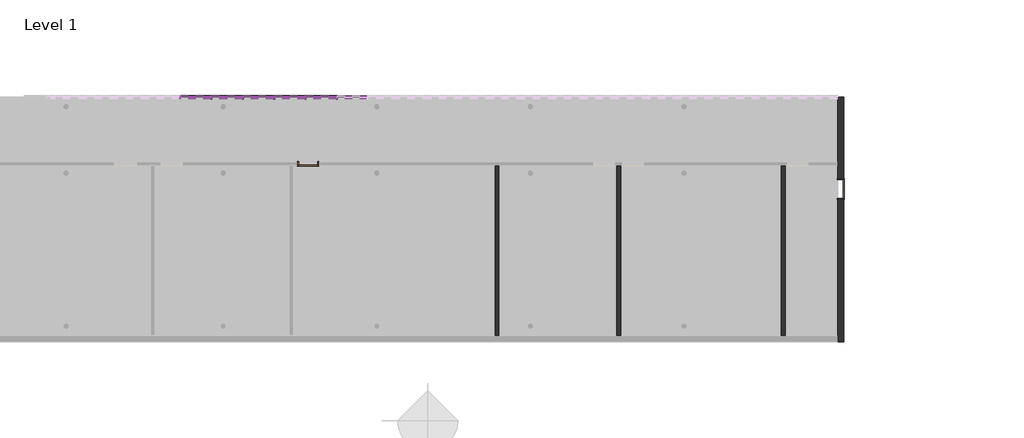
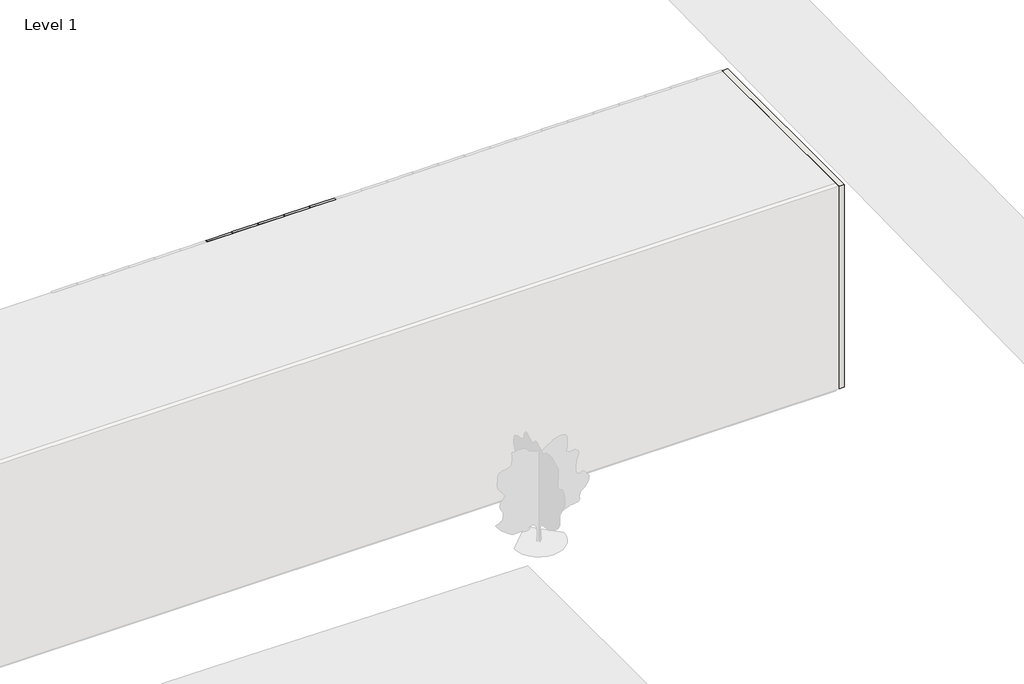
# One storey, part 6 of 18: 81 members, 39 plates, 4 walls, 2 doors.
"""IFC4 building model written with IfcOpenShell, lengths in millimetres."""

from ifc_helpers import new_model, si_unit, origin, origin_with_axes, place, context, project, spatial, polyline, outline, extrude, faceted_brep, transform, mapped, element, save
from components import door_0915mm_x_2134mm_3fa07aa3, door_0915mm_x_2134mm_b19b82af, rectangular_mullion_50mm_x_150mm_5f185edf, rectangular_mullion_50mm_x_150mm_e13fe9f0, rectangular_mullion_50mm_x_150mm_bbc1c4ea, rectangular_mullion_50mm_x_150mm_36202a7c, rectangular_mullion_50mm_x_150mm_84717ec5, system_panel_glazed_65478968, system_panel_glazed_4c130a31, system_panel_solid_368a6b70, system_panel_solid_ece33ae8

model = new_model("IFC4")

# Units and contexts
model_context = context("Model", 3, world=origin())
ifc_project = project(units=[si_unit("LENGTHUNIT", "METRE", prefix="MILLI")], contexts=[model_context])

# Site, building, storey
site = spatial("IfcSite", under=ifc_project)
building = spatial("IfcBuilding", under=site)
storey = spatial("IfcBuildingStorey", under=building, Name="Level 1", Elevation=0.0)

# Doors
placement = place(None, origin())
door_0915mm_x_2134mm_shape = door_0915mm_x_2134mm_3fa07aa3(model_context)
element("IfcDoor", 1, ObjectType="m-doors-hm-f1-a : 0915mm x 2134mm", at=placement, inside=storey, context=model_context, shape_type="MappedRepresentation", body=[
    mapped(door_0915mm_x_2134mm_shape, transform((31461.1968037, -15479.7006057, 0.0), x_axis=(1.0, 0.0, 0.0), y_axis=(0.0, 1.0, 0.0), z_axis=(0.0, 0.0, 1.0))),
])
door_0915mm_x_2134mm_2_shape = door_0915mm_x_2134mm_b19b82af(model_context)
element("IfcDoor", 2, ObjectType="m-doors-hm-f1-a : 0915mm x 2134mm", at=placement, inside=storey, context=model_context, shape_type="MappedRepresentation", body=[
    mapped(door_0915mm_x_2134mm_2_shape, transform((57025.1173382, -16504.7006057, 0.0), x_axis=(0.0, -1.0, 0.0), y_axis=(1.0, 0.0, 0.0), z_axis=(0.0, 0.0, 1.0))),
])

# Members
rectangular_mullion_50mm_x_150mm_shape = rectangular_mullion_50mm_x_150mm_5f185edf(model_context)
element("IfcMember", 3, ObjectType="Rectangular Mullion : 50mm x 150mm", at=placement, inside=storey, context=model_context, shape_type="MappedRepresentation", body=[
    mapped(rectangular_mullion_50mm_x_150mm_shape, transform((32844.5458154, -12132.3615692, 12400.0), x_axis=(0.0, 0.0, 1.0), y_axis=(0.0, 1.0, 0.0), z_axis=(-1.0, 0.0, 0.0))),
])
element("IfcMember", 4, ObjectType="Rectangular Mullion : 50mm x 150mm", at=placement, inside=storey, context=model_context, shape_type="MappedRepresentation", body=[
    mapped(rectangular_mullion_50mm_x_150mm_shape, transform((31352.0725952, -12132.3615692, 12400.0), x_axis=(0.0, 0.0, 1.0), y_axis=(0.0, 1.0, 0.0), z_axis=(-1.0, 0.0, 0.0))),
])
element("IfcMember", 5, ObjectType="Rectangular Mullion : 50mm x 150mm", at=placement, inside=storey, context=model_context, shape_type="MappedRepresentation", body=[
    mapped(rectangular_mullion_50mm_x_150mm_shape, transform((29859.599375, -12132.3615692, 12400.0), x_axis=(0.0, 0.0, 1.0), y_axis=(0.0, 1.0, 0.0), z_axis=(-1.0, 0.0, 0.0))),
])
element("IfcMember", 6, ObjectType="Rectangular Mullion : 50mm x 150mm", at=placement, inside=storey, context=model_context, shape_type="MappedRepresentation", body=[
    mapped(rectangular_mullion_50mm_x_150mm_shape, transform((28367.1261549, -12132.3615692, 12400.0), x_axis=(0.0, 0.0, 1.0), y_axis=(0.0, 1.0, 0.0), z_axis=(-1.0, 0.0, 0.0))),
])
element("IfcMember", 7, ObjectType="Rectangular Mullion : 50mm x 150mm", at=placement, inside=storey, context=model_context, shape_type="MappedRepresentation", body=[
    mapped(rectangular_mullion_50mm_x_150mm_shape, transform((26874.6529347, -12132.3615692, 12400.0), x_axis=(0.0, 0.0, 1.0), y_axis=(0.0, 1.0, 0.0), z_axis=(-1.0, 0.0, 0.0))),
])
element("IfcMember", 8, ObjectType="Rectangular Mullion : 50mm x 150mm", at=placement, inside=storey, context=model_context, shape_type="MappedRepresentation", body=[
    mapped(rectangular_mullion_50mm_x_150mm_shape, transform((32794.5458154, -12132.3615692, 0.0), x_axis=(0.0, 0.0, -1.0), y_axis=(0.0, 1.0, 0.0), z_axis=(1.0, 0.0, 0.0))),
])
element("IfcMember", 9, ObjectType="Rectangular Mullion : 50mm x 150mm", at=placement, inside=storey, context=model_context, shape_type="MappedRepresentation", body=[
    mapped(rectangular_mullion_50mm_x_150mm_shape, transform((31302.0725952, -12132.3615692, 0.0), x_axis=(0.0, 0.0, -1.0), y_axis=(0.0, 1.0, 0.0), z_axis=(1.0, 0.0, 0.0))),
])
element("IfcMember", 10, ObjectType="Rectangular Mullion : 50mm x 150mm", at=placement, inside=storey, context=model_context, shape_type="MappedRepresentation", body=[
    mapped(rectangular_mullion_50mm_x_150mm_shape, transform((29809.599375, -12132.3615692, 0.0), x_axis=(0.0, 0.0, -1.0), y_axis=(0.0, 1.0, 0.0), z_axis=(1.0, 0.0, 0.0))),
])
element("IfcMember", 11, ObjectType="Rectangular Mullion : 50mm x 150mm", at=placement, inside=storey, context=model_context, shape_type="MappedRepresentation", body=[
    mapped(rectangular_mullion_50mm_x_150mm_shape, transform((28317.1261549, -12132.3615692, 0.0), x_axis=(0.0, 0.0, -1.0), y_axis=(0.0, 1.0, 0.0), z_axis=(1.0, 0.0, 0.0))),
])
element("IfcMember", 12, ObjectType="Rectangular Mullion : 50mm x 150mm", at=placement, inside=storey, context=model_context, shape_type="MappedRepresentation", body=[
    mapped(rectangular_mullion_50mm_x_150mm_shape, transform((26824.6529347, -12132.3615692, 0.0), x_axis=(0.0, 0.0, -1.0), y_axis=(0.0, 1.0, 0.0), z_axis=(1.0, 0.0, 0.0))),
])
rectangular_mullion_50mm_x_150mm_2_shape = rectangular_mullion_50mm_x_150mm_e13fe9f0(model_context)
element("IfcMember", 13, ObjectType="Rectangular Mullion : 50mm x 150mm", at=placement, inside=storey, context=model_context, shape_type="MappedRepresentation", body=[
    mapped(rectangular_mullion_50mm_x_150mm_2_shape, transform((32844.5458154, -12132.3615692, 3800.0), x_axis=(0.0, 0.0, 1.0), y_axis=(0.0, 1.0, 0.0), z_axis=(-1.0, 0.0, 0.0))),
])
element("IfcMember", 14, ObjectType="Rectangular Mullion : 50mm x 150mm", at=placement, inside=storey, context=model_context, shape_type="MappedRepresentation", body=[
    mapped(rectangular_mullion_50mm_x_150mm_2_shape, transform((31352.0725952, -12132.3615692, 3800.0), x_axis=(0.0, 0.0, 1.0), y_axis=(0.0, 1.0, 0.0), z_axis=(-1.0, 0.0, 0.0))),
])
element("IfcMember", 15, ObjectType="Rectangular Mullion : 50mm x 150mm", at=placement, inside=storey, context=model_context, shape_type="MappedRepresentation", body=[
    mapped(rectangular_mullion_50mm_x_150mm_2_shape, transform((29859.599375, -12132.3615692, 3800.0), x_axis=(0.0, 0.0, 1.0), y_axis=(0.0, 1.0, 0.0), z_axis=(-1.0, 0.0, 0.0))),
])
element("IfcMember", 16, ObjectType="Rectangular Mullion : 50mm x 150mm", at=placement, inside=storey, context=model_context, shape_type="MappedRepresentation", body=[
    mapped(rectangular_mullion_50mm_x_150mm_2_shape, transform((28367.1261549, -12132.3615692, 3800.0), x_axis=(0.0, 0.0, 1.0), y_axis=(0.0, 1.0, 0.0), z_axis=(-1.0, 0.0, 0.0))),
])
element("IfcMember", 17, ObjectType="Rectangular Mullion : 50mm x 150mm", at=placement, inside=storey, context=model_context, shape_type="MappedRepresentation", body=[
    mapped(rectangular_mullion_50mm_x_150mm_2_shape, transform((26874.6529347, -12132.3615692, 3800.0), x_axis=(0.0, 0.0, 1.0), y_axis=(0.0, 1.0, 0.0), z_axis=(-1.0, 0.0, 0.0))),
])
element("IfcMember", 18, ObjectType="Rectangular Mullion : 50mm x 150mm", at=placement, inside=storey, context=model_context, shape_type="MappedRepresentation", body=[
    mapped(rectangular_mullion_50mm_x_150mm_2_shape, transform((32844.5458154, -12132.3615692, 7600.0), x_axis=(0.0, 0.0, 1.0), y_axis=(0.0, 1.0, 0.0), z_axis=(-1.0, 0.0, 0.0))),
])
element("IfcMember", 19, ObjectType="Rectangular Mullion : 50mm x 150mm", at=placement, inside=storey, context=model_context, shape_type="MappedRepresentation", body=[
    mapped(rectangular_mullion_50mm_x_150mm_2_shape, transform((31352.0725952, -12132.3615692, 7600.0), x_axis=(0.0, 0.0, 1.0), y_axis=(0.0, 1.0, 0.0), z_axis=(-1.0, 0.0, 0.0))),
])
element("IfcMember", 20, ObjectType="Rectangular Mullion : 50mm x 150mm", at=placement, inside=storey, context=model_context, shape_type="MappedRepresentation", body=[
    mapped(rectangular_mullion_50mm_x_150mm_2_shape, transform((29859.599375, -12132.3615692, 7600.0), x_axis=(0.0, 0.0, 1.0), y_axis=(0.0, 1.0, 0.0), z_axis=(-1.0, 0.0, 0.0))),
])
element("IfcMember", 21, ObjectType="Rectangular Mullion : 50mm x 150mm", at=placement, inside=storey, context=model_context, shape_type="MappedRepresentation", body=[
    mapped(rectangular_mullion_50mm_x_150mm_2_shape, transform((28367.1261549, -12132.3615692, 7600.0), x_axis=(0.0, 0.0, 1.0), y_axis=(0.0, 1.0, 0.0), z_axis=(-1.0, 0.0, 0.0))),
])
element("IfcMember", 22, ObjectType="Rectangular Mullion : 50mm x 150mm", at=placement, inside=storey, context=model_context, shape_type="MappedRepresentation", body=[
    mapped(rectangular_mullion_50mm_x_150mm_2_shape, transform((26874.6529347, -12132.3615692, 7600.0), x_axis=(0.0, 0.0, 1.0), y_axis=(0.0, 1.0, 0.0), z_axis=(-1.0, 0.0, 0.0))),
])
element("IfcMember", 23, ObjectType="Rectangular Mullion : 50mm x 150mm", at=placement, inside=storey, context=model_context, shape_type="MappedRepresentation", body=[
    mapped(rectangular_mullion_50mm_x_150mm_2_shape, transform((32844.5458154, -12132.3615692, 11400.0), x_axis=(0.0, 0.0, 1.0), y_axis=(0.0, 1.0, 0.0), z_axis=(-1.0, 0.0, 0.0))),
])
element("IfcMember", 24, ObjectType="Rectangular Mullion : 50mm x 150mm", at=placement, inside=storey, context=model_context, shape_type="MappedRepresentation", body=[
    mapped(rectangular_mullion_50mm_x_150mm_2_shape, transform((31352.0725952, -12132.3615692, 11400.0), x_axis=(0.0, 0.0, 1.0), y_axis=(0.0, 1.0, 0.0), z_axis=(-1.0, 0.0, 0.0))),
])
element("IfcMember", 25, ObjectType="Rectangular Mullion : 50mm x 150mm", at=placement, inside=storey, context=model_context, shape_type="MappedRepresentation", body=[
    mapped(rectangular_mullion_50mm_x_150mm_2_shape, transform((29859.599375, -12132.3615692, 11400.0), x_axis=(0.0, 0.0, 1.0), y_axis=(0.0, 1.0, 0.0), z_axis=(-1.0, 0.0, 0.0))),
])
element("IfcMember", 26, ObjectType="Rectangular Mullion : 50mm x 150mm", at=placement, inside=storey, context=model_context, shape_type="MappedRepresentation", body=[
    mapped(rectangular_mullion_50mm_x_150mm_2_shape, transform((28367.1261549, -12132.3615692, 11400.0), x_axis=(0.0, 0.0, 1.0), y_axis=(0.0, 1.0, 0.0), z_axis=(-1.0, 0.0, 0.0))),
])
element("IfcMember", 27, ObjectType="Rectangular Mullion : 50mm x 150mm", at=placement, inside=storey, context=model_context, shape_type="MappedRepresentation", body=[
    mapped(rectangular_mullion_50mm_x_150mm_2_shape, transform((26874.6529347, -12132.3615692, 11400.0), x_axis=(0.0, 0.0, 1.0), y_axis=(0.0, 1.0, 0.0), z_axis=(-1.0, 0.0, 0.0))),
])
element("IfcMember", 28, ObjectType="Rectangular Mullion : 50mm x 150mm", at=placement, inside=storey, context=model_context, shape_type="MappedRepresentation", body=[
    mapped(rectangular_mullion_50mm_x_150mm_2_shape, transform((32844.5458154, -12132.3615692, 2440.0), x_axis=(0.0, 0.0, 1.0), y_axis=(0.0, 1.0, 0.0), z_axis=(-1.0, 0.0, 0.0))),
])
element("IfcMember", 29, ObjectType="Rectangular Mullion : 50mm x 150mm", at=placement, inside=storey, context=model_context, shape_type="MappedRepresentation", body=[
    mapped(rectangular_mullion_50mm_x_150mm_2_shape, transform((31352.0725952, -12132.3615692, 2440.0), x_axis=(0.0, 0.0, 1.0), y_axis=(0.0, 1.0, 0.0), z_axis=(-1.0, 0.0, 0.0))),
])
element("IfcMember", 30, ObjectType="Rectangular Mullion : 50mm x 150mm", at=placement, inside=storey, context=model_context, shape_type="MappedRepresentation", body=[
    mapped(rectangular_mullion_50mm_x_150mm_2_shape, transform((29859.599375, -12132.3615692, 2440.0), x_axis=(0.0, 0.0, 1.0), y_axis=(0.0, 1.0, 0.0), z_axis=(-1.0, 0.0, 0.0))),
])
element("IfcMember", 31, ObjectType="Rectangular Mullion : 50mm x 150mm", at=placement, inside=storey, context=model_context, shape_type="MappedRepresentation", body=[
    mapped(rectangular_mullion_50mm_x_150mm_2_shape, transform((28367.1261549, -12132.3615692, 2440.0), x_axis=(0.0, 0.0, 1.0), y_axis=(0.0, 1.0, 0.0), z_axis=(-1.0, 0.0, 0.0))),
])
element("IfcMember", 32, ObjectType="Rectangular Mullion : 50mm x 150mm", at=placement, inside=storey, context=model_context, shape_type="MappedRepresentation", body=[
    mapped(rectangular_mullion_50mm_x_150mm_2_shape, transform((26874.6529347, -12132.3615692, 2440.0), x_axis=(0.0, 0.0, 1.0), y_axis=(0.0, 1.0, 0.0), z_axis=(-1.0, 0.0, 0.0))),
])
element("IfcMember", 33, ObjectType="Rectangular Mullion : 50mm x 150mm", at=placement, inside=storey, context=model_context, shape_type="MappedRepresentation", body=[
    mapped(rectangular_mullion_50mm_x_150mm_2_shape, transform((25382.1797146, -12132.3615692, 2440.0), x_axis=(0.0, 0.0, 1.0), y_axis=(0.0, 1.0, 0.0), z_axis=(-1.0, 0.0, 0.0))),
])
element("IfcMember", 34, ObjectType="Rectangular Mullion : 50mm x 150mm", at=placement, inside=storey, context=model_context, shape_type="MappedRepresentation", body=[
    mapped(rectangular_mullion_50mm_x_150mm_2_shape, transform((32844.5458154, -12132.3615692, 6240.0), x_axis=(0.0, 0.0, 1.0), y_axis=(0.0, 1.0, 0.0), z_axis=(-1.0, 0.0, 0.0))),
])
element("IfcMember", 35, ObjectType="Rectangular Mullion : 50mm x 150mm", at=placement, inside=storey, context=model_context, shape_type="MappedRepresentation", body=[
    mapped(rectangular_mullion_50mm_x_150mm_2_shape, transform((31352.0725952, -12132.3615692, 6240.0), x_axis=(0.0, 0.0, 1.0), y_axis=(0.0, 1.0, 0.0), z_axis=(-1.0, 0.0, 0.0))),
])
element("IfcMember", 36, ObjectType="Rectangular Mullion : 50mm x 150mm", at=placement, inside=storey, context=model_context, shape_type="MappedRepresentation", body=[
    mapped(rectangular_mullion_50mm_x_150mm_2_shape, transform((29859.599375, -12132.3615692, 6240.0), x_axis=(0.0, 0.0, 1.0), y_axis=(0.0, 1.0, 0.0), z_axis=(-1.0, 0.0, 0.0))),
])
element("IfcMember", 37, ObjectType="Rectangular Mullion : 50mm x 150mm", at=placement, inside=storey, context=model_context, shape_type="MappedRepresentation", body=[
    mapped(rectangular_mullion_50mm_x_150mm_2_shape, transform((28367.1261549, -12132.3615692, 6240.0), x_axis=(0.0, 0.0, 1.0), y_axis=(0.0, 1.0, 0.0), z_axis=(-1.0, 0.0, 0.0))),
])
element("IfcMember", 38, ObjectType="Rectangular Mullion : 50mm x 150mm", at=placement, inside=storey, context=model_context, shape_type="MappedRepresentation", body=[
    mapped(rectangular_mullion_50mm_x_150mm_2_shape, transform((26874.6529347, -12132.3615692, 6240.0), x_axis=(0.0, 0.0, 1.0), y_axis=(0.0, 1.0, 0.0), z_axis=(-1.0, 0.0, 0.0))),
])
element("IfcMember", 39, ObjectType="Rectangular Mullion : 50mm x 150mm", at=placement, inside=storey, context=model_context, shape_type="MappedRepresentation", body=[
    mapped(rectangular_mullion_50mm_x_150mm_2_shape, transform((25382.1797146, -12132.3615692, 6240.0), x_axis=(0.0, 0.0, 1.0), y_axis=(0.0, 1.0, 0.0), z_axis=(-1.0, 0.0, 0.0))),
])
element("IfcMember", 40, ObjectType="Rectangular Mullion : 50mm x 150mm", at=placement, inside=storey, context=model_context, shape_type="MappedRepresentation", body=[
    mapped(rectangular_mullion_50mm_x_150mm_2_shape, transform((32844.5458154, -12132.3615692, 10040.0), x_axis=(0.0, 0.0, 1.0), y_axis=(0.0, 1.0, 0.0), z_axis=(-1.0, 0.0, 0.0))),
])
element("IfcMember", 41, ObjectType="Rectangular Mullion : 50mm x 150mm", at=placement, inside=storey, context=model_context, shape_type="MappedRepresentation", body=[
    mapped(rectangular_mullion_50mm_x_150mm_2_shape, transform((31352.0725952, -12132.3615692, 10040.0), x_axis=(0.0, 0.0, 1.0), y_axis=(0.0, 1.0, 0.0), z_axis=(-1.0, 0.0, 0.0))),
])
element("IfcMember", 42, ObjectType="Rectangular Mullion : 50mm x 150mm", at=placement, inside=storey, context=model_context, shape_type="MappedRepresentation", body=[
    mapped(rectangular_mullion_50mm_x_150mm_2_shape, transform((29859.599375, -12132.3615692, 10040.0), x_axis=(0.0, 0.0, 1.0), y_axis=(0.0, 1.0, 0.0), z_axis=(-1.0, 0.0, 0.0))),
])
element("IfcMember", 43, ObjectType="Rectangular Mullion : 50mm x 150mm", at=placement, inside=storey, context=model_context, shape_type="MappedRepresentation", body=[
    mapped(rectangular_mullion_50mm_x_150mm_2_shape, transform((28367.1261549, -12132.3615692, 10040.0), x_axis=(0.0, 0.0, 1.0), y_axis=(0.0, 1.0, 0.0), z_axis=(-1.0, 0.0, 0.0))),
])
element("IfcMember", 44, ObjectType="Rectangular Mullion : 50mm x 150mm", at=placement, inside=storey, context=model_context, shape_type="MappedRepresentation", body=[
    mapped(rectangular_mullion_50mm_x_150mm_2_shape, transform((26874.6529347, -12132.3615692, 10040.0), x_axis=(0.0, 0.0, 1.0), y_axis=(0.0, 1.0, 0.0), z_axis=(-1.0, 0.0, 0.0))),
])
element("IfcMember", 45, ObjectType="Rectangular Mullion : 50mm x 150mm", at=placement, inside=storey, context=model_context, shape_type="MappedRepresentation", body=[
    mapped(rectangular_mullion_50mm_x_150mm_2_shape, transform((25382.1797146, -12132.3615692, 10040.0), x_axis=(0.0, 0.0, 1.0), y_axis=(0.0, 1.0, 0.0), z_axis=(-1.0, 0.0, 0.0))),
])
rectangular_mullion_50mm_x_150mm_3_shape = rectangular_mullion_50mm_x_150mm_bbc1c4ea(model_context)
element("IfcMember", 46, ObjectType="Rectangular Mullion : 50mm x 150mm", at=placement, inside=storey, context=model_context, shape_type="MappedRepresentation", body=[
    mapped(rectangular_mullion_50mm_x_150mm_3_shape, transform((32819.5458154, -12132.3615692, 11400.0), x_axis=(-1.0, 0.0, 0.0), y_axis=(0.0, 1.0, 0.0), z_axis=(0.0, 0.0, -1.0))),
])
element("IfcMember", 47, ObjectType="Rectangular Mullion : 50mm x 150mm", at=placement, inside=storey, context=model_context, shape_type="MappedRepresentation", body=[
    mapped(rectangular_mullion_50mm_x_150mm_3_shape, transform((31327.0725952, -12132.3615692, 11400.0), x_axis=(-1.0, 0.0, 0.0), y_axis=(0.0, 1.0, 0.0), z_axis=(0.0, 0.0, -1.0))),
])
element("IfcMember", 48, ObjectType="Rectangular Mullion : 50mm x 150mm", at=placement, inside=storey, context=model_context, shape_type="MappedRepresentation", body=[
    mapped(rectangular_mullion_50mm_x_150mm_3_shape, transform((29834.599375, -12132.3615692, 11400.0), x_axis=(-1.0, 0.0, 0.0), y_axis=(0.0, 1.0, 0.0), z_axis=(0.0, 0.0, -1.0))),
])
element("IfcMember", 49, ObjectType="Rectangular Mullion : 50mm x 150mm", at=placement, inside=storey, context=model_context, shape_type="MappedRepresentation", body=[
    mapped(rectangular_mullion_50mm_x_150mm_3_shape, transform((28342.1261549, -12132.3615692, 11400.0), x_axis=(-1.0, 0.0, 0.0), y_axis=(0.0, 1.0, 0.0), z_axis=(0.0, 0.0, -1.0))),
])
element("IfcMember", 50, ObjectType="Rectangular Mullion : 50mm x 150mm", at=placement, inside=storey, context=model_context, shape_type="MappedRepresentation", body=[
    mapped(rectangular_mullion_50mm_x_150mm_3_shape, transform((26849.6529347, -12132.3615692, 11400.0), x_axis=(-1.0, 0.0, 0.0), y_axis=(0.0, 1.0, 0.0), z_axis=(0.0, 0.0, -1.0))),
])
rectangular_mullion_50mm_x_150mm_4_shape = rectangular_mullion_50mm_x_150mm_36202a7c(model_context)
element("IfcMember", 51, ObjectType="Rectangular Mullion : 50mm x 150mm", at=placement, inside=storey, context=model_context, shape_type="MappedRepresentation", body=[
    mapped(rectangular_mullion_50mm_x_150mm_4_shape, transform((32819.5458154, -12132.3615692, 0.0), x_axis=(-1.0, 0.0, 0.0), y_axis=(0.0, 1.0, 0.0), z_axis=(0.0, 0.0, -1.0))),
])
element("IfcMember", 52, ObjectType="Rectangular Mullion : 50mm x 150mm", at=placement, inside=storey, context=model_context, shape_type="MappedRepresentation", body=[
    mapped(rectangular_mullion_50mm_x_150mm_4_shape, transform((31327.0725952, -12132.3615692, 0.0), x_axis=(-1.0, 0.0, 0.0), y_axis=(0.0, 1.0, 0.0), z_axis=(0.0, 0.0, -1.0))),
])
element("IfcMember", 53, ObjectType="Rectangular Mullion : 50mm x 150mm", at=placement, inside=storey, context=model_context, shape_type="MappedRepresentation", body=[
    mapped(rectangular_mullion_50mm_x_150mm_4_shape, transform((29834.599375, -12132.3615692, 0.0), x_axis=(-1.0, 0.0, 0.0), y_axis=(0.0, 1.0, 0.0), z_axis=(0.0, 0.0, -1.0))),
])
element("IfcMember", 54, ObjectType="Rectangular Mullion : 50mm x 150mm", at=placement, inside=storey, context=model_context, shape_type="MappedRepresentation", body=[
    mapped(rectangular_mullion_50mm_x_150mm_4_shape, transform((28342.1261549, -12132.3615692, 0.0), x_axis=(-1.0, 0.0, 0.0), y_axis=(0.0, 1.0, 0.0), z_axis=(0.0, 0.0, -1.0))),
])
element("IfcMember", 55, ObjectType="Rectangular Mullion : 50mm x 150mm", at=placement, inside=storey, context=model_context, shape_type="MappedRepresentation", body=[
    mapped(rectangular_mullion_50mm_x_150mm_4_shape, transform((26849.6529347, -12132.3615692, 0.0), x_axis=(-1.0, 0.0, 0.0), y_axis=(0.0, 1.0, 0.0), z_axis=(0.0, 0.0, -1.0))),
])
rectangular_mullion_50mm_x_150mm_5_shape = rectangular_mullion_50mm_x_150mm_84717ec5(model_context)
element("IfcMember", 56, ObjectType="Rectangular Mullion : 50mm x 150mm", at=placement, inside=storey, context=model_context, shape_type="MappedRepresentation", body=[
    mapped(rectangular_mullion_50mm_x_150mm_5_shape, transform((32819.5458154, -12132.3615692, 2440.0), x_axis=(-1.0, 0.0, 0.0), y_axis=(0.0, 1.0, 0.0), z_axis=(0.0, 0.0, -1.0))),
])
element("IfcMember", 57, ObjectType="Rectangular Mullion : 50mm x 150mm", at=placement, inside=storey, context=model_context, shape_type="MappedRepresentation", body=[
    mapped(rectangular_mullion_50mm_x_150mm_5_shape, transform((31327.0725952, -12132.3615692, 2440.0), x_axis=(-1.0, 0.0, 0.0), y_axis=(0.0, 1.0, 0.0), z_axis=(0.0, 0.0, -1.0))),
])
element("IfcMember", 58, ObjectType="Rectangular Mullion : 50mm x 150mm", at=placement, inside=storey, context=model_context, shape_type="MappedRepresentation", body=[
    mapped(rectangular_mullion_50mm_x_150mm_5_shape, transform((29834.599375, -12132.3615692, 2440.0), x_axis=(-1.0, 0.0, 0.0), y_axis=(0.0, 1.0, 0.0), z_axis=(0.0, 0.0, -1.0))),
])
element("IfcMember", 59, ObjectType="Rectangular Mullion : 50mm x 150mm", at=placement, inside=storey, context=model_context, shape_type="MappedRepresentation", body=[
    mapped(rectangular_mullion_50mm_x_150mm_5_shape, transform((28342.1261549, -12132.3615692, 2440.0), x_axis=(-1.0, 0.0, 0.0), y_axis=(0.0, 1.0, 0.0), z_axis=(0.0, 0.0, -1.0))),
])
element("IfcMember", 60, ObjectType="Rectangular Mullion : 50mm x 150mm", at=placement, inside=storey, context=model_context, shape_type="MappedRepresentation", body=[
    mapped(rectangular_mullion_50mm_x_150mm_5_shape, transform((26849.6529347, -12132.3615692, 2440.0), x_axis=(-1.0, 0.0, 0.0), y_axis=(0.0, 1.0, 0.0), z_axis=(0.0, 0.0, -1.0))),
])
element("IfcMember", 61, ObjectType="Rectangular Mullion : 50mm x 150mm", at=placement, inside=storey, context=model_context, shape_type="MappedRepresentation", body=[
    mapped(rectangular_mullion_50mm_x_150mm_5_shape, transform((25357.1797146, -12132.3615692, 2440.0), x_axis=(-1.0, 0.0, 0.0), y_axis=(0.0, 1.0, 0.0), z_axis=(0.0, 0.0, -1.0))),
])
element("IfcMember", 62, ObjectType="Rectangular Mullion : 50mm x 150mm", at=placement, inside=storey, context=model_context, shape_type="MappedRepresentation", body=[
    mapped(rectangular_mullion_50mm_x_150mm_5_shape, transform((32819.5458154, -12132.3615692, 6240.0), x_axis=(-1.0, 0.0, 0.0), y_axis=(0.0, 1.0, 0.0), z_axis=(0.0, 0.0, -1.0))),
])
element("IfcMember", 63, ObjectType="Rectangular Mullion : 50mm x 150mm", at=placement, inside=storey, context=model_context, shape_type="MappedRepresentation", body=[
    mapped(rectangular_mullion_50mm_x_150mm_5_shape, transform((31327.0725952, -12132.3615692, 6240.0), x_axis=(-1.0, 0.0, 0.0), y_axis=(0.0, 1.0, 0.0), z_axis=(0.0, 0.0, -1.0))),
])
element("IfcMember", 64, ObjectType="Rectangular Mullion : 50mm x 150mm", at=placement, inside=storey, context=model_context, shape_type="MappedRepresentation", body=[
    mapped(rectangular_mullion_50mm_x_150mm_5_shape, transform((29834.599375, -12132.3615692, 6240.0), x_axis=(-1.0, 0.0, 0.0), y_axis=(0.0, 1.0, 0.0), z_axis=(0.0, 0.0, -1.0))),
])
element("IfcMember", 65, ObjectType="Rectangular Mullion : 50mm x 150mm", at=placement, inside=storey, context=model_context, shape_type="MappedRepresentation", body=[
    mapped(rectangular_mullion_50mm_x_150mm_5_shape, transform((28342.1261549, -12132.3615692, 6240.0), x_axis=(-1.0, 0.0, 0.0), y_axis=(0.0, 1.0, 0.0), z_axis=(0.0, 0.0, -1.0))),
])
element("IfcMember", 66, ObjectType="Rectangular Mullion : 50mm x 150mm", at=placement, inside=storey, context=model_context, shape_type="MappedRepresentation", body=[
    mapped(rectangular_mullion_50mm_x_150mm_5_shape, transform((26849.6529347, -12132.3615692, 6240.0), x_axis=(-1.0, 0.0, 0.0), y_axis=(0.0, 1.0, 0.0), z_axis=(0.0, 0.0, -1.0))),
])
element("IfcMember", 67, ObjectType="Rectangular Mullion : 50mm x 150mm", at=placement, inside=storey, context=model_context, shape_type="MappedRepresentation", body=[
    mapped(rectangular_mullion_50mm_x_150mm_5_shape, transform((25357.1797146, -12132.3615692, 6240.0), x_axis=(-1.0, 0.0, 0.0), y_axis=(0.0, 1.0, 0.0), z_axis=(0.0, 0.0, -1.0))),
])
element("IfcMember", 68, ObjectType="Rectangular Mullion : 50mm x 150mm", at=placement, inside=storey, context=model_context, shape_type="MappedRepresentation", body=[
    mapped(rectangular_mullion_50mm_x_150mm_5_shape, transform((32819.5458154, -12132.3615692, 10040.0), x_axis=(-1.0, 0.0, 0.0), y_axis=(0.0, 1.0, 0.0), z_axis=(0.0, 0.0, -1.0))),
])
element("IfcMember", 69, ObjectType="Rectangular Mullion : 50mm x 150mm", at=placement, inside=storey, context=model_context, shape_type="MappedRepresentation", body=[
    mapped(rectangular_mullion_50mm_x_150mm_5_shape, transform((31327.0725952, -12132.3615692, 10040.0), x_axis=(-1.0, 0.0, 0.0), y_axis=(0.0, 1.0, 0.0), z_axis=(0.0, 0.0, -1.0))),
])
element("IfcMember", 70, ObjectType="Rectangular Mullion : 50mm x 150mm", at=placement, inside=storey, context=model_context, shape_type="MappedRepresentation", body=[
    mapped(rectangular_mullion_50mm_x_150mm_5_shape, transform((29834.599375, -12132.3615692, 10040.0), x_axis=(-1.0, 0.0, 0.0), y_axis=(0.0, 1.0, 0.0), z_axis=(0.0, 0.0, -1.0))),
])
element("IfcMember", 71, ObjectType="Rectangular Mullion : 50mm x 150mm", at=placement, inside=storey, context=model_context, shape_type="MappedRepresentation", body=[
    mapped(rectangular_mullion_50mm_x_150mm_5_shape, transform((28342.1261549, -12132.3615692, 10040.0), x_axis=(-1.0, 0.0, 0.0), y_axis=(0.0, 1.0, 0.0), z_axis=(0.0, 0.0, -1.0))),
])
element("IfcMember", 72, ObjectType="Rectangular Mullion : 50mm x 150mm", at=placement, inside=storey, context=model_context, shape_type="MappedRepresentation", body=[
    mapped(rectangular_mullion_50mm_x_150mm_5_shape, transform((26849.6529347, -12132.3615692, 10040.0), x_axis=(-1.0, 0.0, 0.0), y_axis=(0.0, 1.0, 0.0), z_axis=(0.0, 0.0, -1.0))),
])
element("IfcMember", 73, ObjectType="Rectangular Mullion : 50mm x 150mm", at=placement, inside=storey, context=model_context, shape_type="MappedRepresentation", body=[
    mapped(rectangular_mullion_50mm_x_150mm_5_shape, transform((25357.1797146, -12132.3615692, 10040.0), x_axis=(-1.0, 0.0, 0.0), y_axis=(0.0, 1.0, 0.0), z_axis=(0.0, 0.0, -1.0))),
])
element("IfcMember", 74, ObjectType="Rectangular Mullion : 50mm x 150mm", at=placement, inside=storey, context=model_context, shape_type="MappedRepresentation", body=[
    mapped(rectangular_mullion_50mm_x_150mm_4_shape, transform((32819.5458154, -12132.3615692, 3800.0), x_axis=(-1.0, 0.0, 0.0), y_axis=(0.0, 1.0, 0.0), z_axis=(0.0, 0.0, -1.0))),
])
element("IfcMember", 75, ObjectType="Rectangular Mullion : 50mm x 150mm", at=placement, inside=storey, context=model_context, shape_type="MappedRepresentation", body=[
    mapped(rectangular_mullion_50mm_x_150mm_4_shape, transform((31327.0725952, -12132.3615692, 3800.0), x_axis=(-1.0, 0.0, 0.0), y_axis=(0.0, 1.0, 0.0), z_axis=(0.0, 0.0, -1.0))),
])
element("IfcMember", 76, ObjectType="Rectangular Mullion : 50mm x 150mm", at=placement, inside=storey, context=model_context, shape_type="MappedRepresentation", body=[
    mapped(rectangular_mullion_50mm_x_150mm_4_shape, transform((29834.599375, -12132.3615692, 3800.0), x_axis=(-1.0, 0.0, 0.0), y_axis=(0.0, 1.0, 0.0), z_axis=(0.0, 0.0, -1.0))),
])
element("IfcMember", 77, ObjectType="Rectangular Mullion : 50mm x 150mm", at=placement, inside=storey, context=model_context, shape_type="MappedRepresentation", body=[
    mapped(rectangular_mullion_50mm_x_150mm_4_shape, transform((28342.1261549, -12132.3615692, 3800.0), x_axis=(-1.0, 0.0, 0.0), y_axis=(0.0, 1.0, 0.0), z_axis=(0.0, 0.0, -1.0))),
])
element("IfcMember", 78, ObjectType="Rectangular Mullion : 50mm x 150mm", at=placement, inside=storey, context=model_context, shape_type="MappedRepresentation", body=[
    mapped(rectangular_mullion_50mm_x_150mm_4_shape, transform((26849.6529347, -12132.3615692, 3800.0), x_axis=(-1.0, 0.0, 0.0), y_axis=(0.0, 1.0, 0.0), z_axis=(0.0, 0.0, -1.0))),
])
element("IfcMember", 79, ObjectType="Rectangular Mullion : 50mm x 150mm", at=placement, inside=storey, context=model_context, shape_type="MappedRepresentation", body=[
    mapped(rectangular_mullion_50mm_x_150mm_4_shape, transform((32819.5458154, -12132.3615692, 7600.0), x_axis=(-1.0, 0.0, 0.0), y_axis=(0.0, 1.0, 0.0), z_axis=(0.0, 0.0, -1.0))),
])
element("IfcMember", 80, ObjectType="Rectangular Mullion : 50mm x 150mm", at=placement, inside=storey, context=model_context, shape_type="MappedRepresentation", body=[
    mapped(rectangular_mullion_50mm_x_150mm_4_shape, transform((31327.0725952, -12132.3615692, 7600.0), x_axis=(-1.0, 0.0, 0.0), y_axis=(0.0, 1.0, 0.0), z_axis=(0.0, 0.0, -1.0))),
])
element("IfcMember", 81, ObjectType="Rectangular Mullion : 50mm x 150mm", at=placement, inside=storey, context=model_context, shape_type="MappedRepresentation", body=[
    mapped(rectangular_mullion_50mm_x_150mm_4_shape, transform((29834.599375, -12132.3615692, 7600.0), x_axis=(-1.0, 0.0, 0.0), y_axis=(0.0, 1.0, 0.0), z_axis=(0.0, 0.0, -1.0))),
])
element("IfcMember", 82, ObjectType="Rectangular Mullion : 50mm x 150mm", at=placement, inside=storey, context=model_context, shape_type="MappedRepresentation", body=[
    mapped(rectangular_mullion_50mm_x_150mm_4_shape, transform((28342.1261549, -12132.3615692, 7600.0), x_axis=(-1.0, 0.0, 0.0), y_axis=(0.0, 1.0, 0.0), z_axis=(0.0, 0.0, -1.0))),
])
element("IfcMember", 83, ObjectType="Rectangular Mullion : 50mm x 150mm", at=placement, inside=storey, context=model_context, shape_type="MappedRepresentation", body=[
    mapped(rectangular_mullion_50mm_x_150mm_4_shape, transform((26849.6529347, -12132.3615692, 7600.0), x_axis=(-1.0, 0.0, 0.0), y_axis=(0.0, 1.0, 0.0), z_axis=(0.0, 0.0, -1.0))),
])

# Plates
system_panel_glazed_shape = system_panel_glazed_65478968(model_context)
element("IfcPlate", 84, ObjectType="System Panel : Glazed", at=placement, inside=storey, context=model_context, shape_type="MappedRepresentation", body=[
    mapped(system_panel_glazed_shape, transform((33565.7824254, -12132.3615692, 50.0), x_axis=(-1.0, 0.0, 0.0), y_axis=(0.0, -1.0, 0.0), z_axis=(0.0, 0.0, 1.0))),
])
element("IfcPlate", 85, ObjectType="System Panel : Glazed", at=placement, inside=storey, context=model_context, shape_type="MappedRepresentation", body=[
    mapped(system_panel_glazed_shape, transform((32073.3092053, -12132.3615692, 50.0), x_axis=(-1.0, 0.0, 0.0), y_axis=(0.0, -1.0, 0.0), z_axis=(0.0, 0.0, 1.0))),
])
element("IfcPlate", 86, ObjectType="System Panel : Glazed", at=placement, inside=storey, context=model_context, shape_type="MappedRepresentation", body=[
    mapped(system_panel_glazed_shape, transform((30580.8359851, -12132.3615692, 50.0), x_axis=(-1.0, 0.0, 0.0), y_axis=(0.0, -1.0, 0.0), z_axis=(0.0, 0.0, 1.0))),
])
element("IfcPlate", 87, ObjectType="System Panel : Glazed", at=placement, inside=storey, context=model_context, shape_type="MappedRepresentation", body=[
    mapped(system_panel_glazed_shape, transform((29088.362765, -12132.3615692, 50.0), x_axis=(-1.0, 0.0, 0.0), y_axis=(0.0, -1.0, 0.0), z_axis=(0.0, 0.0, 1.0))),
])
element("IfcPlate", 88, ObjectType="System Panel : Glazed", at=placement, inside=storey, context=model_context, shape_type="MappedRepresentation", body=[
    mapped(system_panel_glazed_shape, transform((27595.8895448, -12132.3615692, 50.0), x_axis=(-1.0, 0.0, 0.0), y_axis=(0.0, -1.0, 0.0), z_axis=(0.0, 0.0, 1.0))),
])
element("IfcPlate", 89, ObjectType="System Panel : Glazed", at=placement, inside=storey, context=model_context, shape_type="MappedRepresentation", body=[
    mapped(system_panel_glazed_shape, transform((26103.4163247, -12132.3615692, 50.0), x_axis=(-1.0, 0.0, 0.0), y_axis=(0.0, -1.0, 0.0), z_axis=(0.0, 0.0, 1.0))),
])
system_panel_glazed_2_shape = system_panel_glazed_4c130a31(model_context)
element("IfcPlate", 90, ObjectType="System Panel : Glazed", at=placement, inside=storey, context=model_context, shape_type="MappedRepresentation", body=[
    mapped(system_panel_glazed_2_shape, transform((33565.7824254, -12132.3615692, 3825.0), x_axis=(-1.0, 0.0, 0.0), y_axis=(0.0, -1.0, 0.0), z_axis=(0.0, 0.0, 1.0))),
])
element("IfcPlate", 91, ObjectType="System Panel : Glazed", at=placement, inside=storey, context=model_context, shape_type="MappedRepresentation", body=[
    mapped(system_panel_glazed_2_shape, transform((32073.3092053, -12132.3615692, 3825.0), x_axis=(-1.0, 0.0, 0.0), y_axis=(0.0, -1.0, 0.0), z_axis=(0.0, 0.0, 1.0))),
])
element("IfcPlate", 92, ObjectType="System Panel : Glazed", at=placement, inside=storey, context=model_context, shape_type="MappedRepresentation", body=[
    mapped(system_panel_glazed_2_shape, transform((30580.8359851, -12132.3615692, 3825.0), x_axis=(-1.0, 0.0, 0.0), y_axis=(0.0, -1.0, 0.0), z_axis=(0.0, 0.0, 1.0))),
])
element("IfcPlate", 93, ObjectType="System Panel : Glazed", at=placement, inside=storey, context=model_context, shape_type="MappedRepresentation", body=[
    mapped(system_panel_glazed_2_shape, transform((29088.362765, -12132.3615692, 3825.0), x_axis=(-1.0, 0.0, 0.0), y_axis=(0.0, -1.0, 0.0), z_axis=(0.0, 0.0, 1.0))),
])
element("IfcPlate", 94, ObjectType="System Panel : Glazed", at=placement, inside=storey, context=model_context, shape_type="MappedRepresentation", body=[
    mapped(system_panel_glazed_2_shape, transform((27595.8895448, -12132.3615692, 3825.0), x_axis=(-1.0, 0.0, 0.0), y_axis=(0.0, -1.0, 0.0), z_axis=(0.0, 0.0, 1.0))),
])
element("IfcPlate", 95, ObjectType="System Panel : Glazed", at=placement, inside=storey, context=model_context, shape_type="MappedRepresentation", body=[
    mapped(system_panel_glazed_2_shape, transform((26103.4163247, -12132.3615692, 3825.0), x_axis=(-1.0, 0.0, 0.0), y_axis=(0.0, -1.0, 0.0), z_axis=(0.0, 0.0, 1.0))),
])
element("IfcPlate", 96, ObjectType="System Panel : Glazed", at=placement, inside=storey, context=model_context, shape_type="MappedRepresentation", body=[
    mapped(system_panel_glazed_2_shape, transform((33565.7824254, -12132.3615692, 7625.0), x_axis=(-1.0, 0.0, 0.0), y_axis=(0.0, -1.0, 0.0), z_axis=(0.0, 0.0, 1.0))),
])
element("IfcPlate", 97, ObjectType="System Panel : Glazed", at=placement, inside=storey, context=model_context, shape_type="MappedRepresentation", body=[
    mapped(system_panel_glazed_2_shape, transform((32073.3092053, -12132.3615692, 7625.0), x_axis=(-1.0, 0.0, 0.0), y_axis=(0.0, -1.0, 0.0), z_axis=(0.0, 0.0, 1.0))),
])
element("IfcPlate", 98, ObjectType="System Panel : Glazed", at=placement, inside=storey, context=model_context, shape_type="MappedRepresentation", body=[
    mapped(system_panel_glazed_2_shape, transform((30580.8359851, -12132.3615692, 7625.0), x_axis=(-1.0, 0.0, 0.0), y_axis=(0.0, -1.0, 0.0), z_axis=(0.0, 0.0, 1.0))),
])
element("IfcPlate", 99, ObjectType="System Panel : Glazed", at=placement, inside=storey, context=model_context, shape_type="MappedRepresentation", body=[
    mapped(system_panel_glazed_2_shape, transform((29088.362765, -12132.3615692, 7625.0), x_axis=(-1.0, 0.0, 0.0), y_axis=(0.0, -1.0, 0.0), z_axis=(0.0, 0.0, 1.0))),
])
element("IfcPlate", 100, ObjectType="System Panel : Glazed", at=placement, inside=storey, context=model_context, shape_type="MappedRepresentation", body=[
    mapped(system_panel_glazed_2_shape, transform((27595.8895448, -12132.3615692, 7625.0), x_axis=(-1.0, 0.0, 0.0), y_axis=(0.0, -1.0, 0.0), z_axis=(0.0, 0.0, 1.0))),
])
element("IfcPlate", 101, ObjectType="System Panel : Glazed", at=placement, inside=storey, context=model_context, shape_type="MappedRepresentation", body=[
    mapped(system_panel_glazed_2_shape, transform((26103.4163247, -12132.3615692, 7625.0), x_axis=(-1.0, 0.0, 0.0), y_axis=(0.0, -1.0, 0.0), z_axis=(0.0, 0.0, 1.0))),
])
system_panel_solid_shape = system_panel_solid_368a6b70(model_context)
element("IfcPlate", 102, ObjectType="System Panel : Solid", at=placement, inside=storey, context=model_context, shape_type="MappedRepresentation", body=[
    mapped(system_panel_solid_shape, transform((33565.7824254, -12132.3615692, 11425.0), x_axis=(-1.0, 0.0, 0.0), y_axis=(0.0, -1.0, 0.0), z_axis=(0.0, 0.0, 1.0))),
])
element("IfcPlate", 103, ObjectType="System Panel : Solid", at=placement, inside=storey, context=model_context, shape_type="MappedRepresentation", body=[
    mapped(system_panel_solid_shape, transform((32073.3092053, -12132.3615692, 11425.0), x_axis=(-1.0, 0.0, 0.0), y_axis=(0.0, -1.0, 0.0), z_axis=(0.0, 0.0, 1.0))),
])
element("IfcPlate", 104, ObjectType="System Panel : Solid", at=placement, inside=storey, context=model_context, shape_type="MappedRepresentation", body=[
    mapped(system_panel_solid_shape, transform((30580.8359851, -12132.3615692, 11425.0), x_axis=(-1.0, 0.0, 0.0), y_axis=(0.0, -1.0, 0.0), z_axis=(0.0, 0.0, 1.0))),
])
element("IfcPlate", 105, ObjectType="System Panel : Solid", at=placement, inside=storey, context=model_context, shape_type="MappedRepresentation", body=[
    mapped(system_panel_solid_shape, transform((29088.362765, -12132.3615692, 11425.0), x_axis=(-1.0, 0.0, 0.0), y_axis=(0.0, -1.0, 0.0), z_axis=(0.0, 0.0, 1.0))),
])
element("IfcPlate", 106, ObjectType="System Panel : Solid", at=placement, inside=storey, context=model_context, shape_type="MappedRepresentation", body=[
    mapped(system_panel_solid_shape, transform((27595.8895448, -12132.3615692, 11425.0), x_axis=(-1.0, 0.0, 0.0), y_axis=(0.0, -1.0, 0.0), z_axis=(0.0, 0.0, 1.0))),
])
element("IfcPlate", 107, ObjectType="System Panel : Solid", at=placement, inside=storey, context=model_context, shape_type="MappedRepresentation", body=[
    mapped(system_panel_solid_shape, transform((26103.4163247, -12132.3615692, 11425.0), x_axis=(-1.0, 0.0, 0.0), y_axis=(0.0, -1.0, 0.0), z_axis=(0.0, 0.0, 1.0))),
])
system_panel_solid_2_shape = system_panel_solid_ece33ae8(model_context)
element("IfcPlate", 108, ObjectType="System Panel : Solid", at=placement, inside=storey, context=model_context, shape_type="MappedRepresentation", body=[
    mapped(system_panel_solid_2_shape, transform((32073.3092053, -12132.3615692, 2465.0), x_axis=(-1.0, 0.0, 0.0), y_axis=(0.0, -1.0, 0.0), z_axis=(0.0, 0.0, 1.0))),
])
element("IfcPlate", 109, ObjectType="System Panel : Solid", at=placement, inside=storey, context=model_context, shape_type="MappedRepresentation", body=[
    mapped(system_panel_solid_2_shape, transform((30580.8359851, -12132.3615692, 2465.0), x_axis=(-1.0, 0.0, 0.0), y_axis=(0.0, -1.0, 0.0), z_axis=(0.0, 0.0, 1.0))),
])
element("IfcPlate", 110, ObjectType="System Panel : Solid", at=placement, inside=storey, context=model_context, shape_type="MappedRepresentation", body=[
    mapped(system_panel_solid_2_shape, transform((29088.362765, -12132.3615692, 2465.0), x_axis=(-1.0, 0.0, 0.0), y_axis=(0.0, -1.0, 0.0), z_axis=(0.0, 0.0, 1.0))),
])
element("IfcPlate", 111, ObjectType="System Panel : Solid", at=placement, inside=storey, context=model_context, shape_type="MappedRepresentation", body=[
    mapped(system_panel_solid_2_shape, transform((27595.8895448, -12132.3615692, 2465.0), x_axis=(-1.0, 0.0, 0.0), y_axis=(0.0, -1.0, 0.0), z_axis=(0.0, 0.0, 1.0))),
])
element("IfcPlate", 112, ObjectType="System Panel : Solid", at=placement, inside=storey, context=model_context, shape_type="MappedRepresentation", body=[
    mapped(system_panel_solid_2_shape, transform((26103.4163247, -12132.3615692, 2465.0), x_axis=(-1.0, 0.0, 0.0), y_axis=(0.0, -1.0, 0.0), z_axis=(0.0, 0.0, 1.0))),
])
element("IfcPlate", 113, ObjectType="System Panel : Solid", at=placement, inside=storey, context=model_context, shape_type="MappedRepresentation", body=[
    mapped(system_panel_solid_2_shape, transform((32073.3092053, -12132.3615692, 6265.0), x_axis=(-1.0, 0.0, 0.0), y_axis=(0.0, -1.0, 0.0), z_axis=(0.0, 0.0, 1.0))),
])
element("IfcPlate", 114, ObjectType="System Panel : Solid", at=placement, inside=storey, context=model_context, shape_type="MappedRepresentation", body=[
    mapped(system_panel_solid_2_shape, transform((30580.8359851, -12132.3615692, 6265.0), x_axis=(-1.0, 0.0, 0.0), y_axis=(0.0, -1.0, 0.0), z_axis=(0.0, 0.0, 1.0))),
])
element("IfcPlate", 115, ObjectType="System Panel : Solid", at=placement, inside=storey, context=model_context, shape_type="MappedRepresentation", body=[
    mapped(system_panel_solid_2_shape, transform((29088.362765, -12132.3615692, 6265.0), x_axis=(-1.0, 0.0, 0.0), y_axis=(0.0, -1.0, 0.0), z_axis=(0.0, 0.0, 1.0))),
])
element("IfcPlate", 116, ObjectType="System Panel : Solid", at=placement, inside=storey, context=model_context, shape_type="MappedRepresentation", body=[
    mapped(system_panel_solid_2_shape, transform((27595.8895448, -12132.3615692, 6265.0), x_axis=(-1.0, 0.0, 0.0), y_axis=(0.0, -1.0, 0.0), z_axis=(0.0, 0.0, 1.0))),
])
element("IfcPlate", 117, ObjectType="System Panel : Solid", at=placement, inside=storey, context=model_context, shape_type="MappedRepresentation", body=[
    mapped(system_panel_solid_2_shape, transform((26103.4163247, -12132.3615692, 6265.0), x_axis=(-1.0, 0.0, 0.0), y_axis=(0.0, -1.0, 0.0), z_axis=(0.0, 0.0, 1.0))),
])
element("IfcPlate", 118, ObjectType="System Panel : Solid", at=placement, inside=storey, context=model_context, shape_type="MappedRepresentation", body=[
    mapped(system_panel_solid_2_shape, transform((32073.3092053, -12132.3615692, 10065.0), x_axis=(-1.0, 0.0, 0.0), y_axis=(0.0, -1.0, 0.0), z_axis=(0.0, 0.0, 1.0))),
])
element("IfcPlate", 119, ObjectType="System Panel : Solid", at=placement, inside=storey, context=model_context, shape_type="MappedRepresentation", body=[
    mapped(system_panel_solid_2_shape, transform((30580.8359851, -12132.3615692, 10065.0), x_axis=(-1.0, 0.0, 0.0), y_axis=(0.0, -1.0, 0.0), z_axis=(0.0, 0.0, 1.0))),
])
element("IfcPlate", 120, ObjectType="System Panel : Solid", at=placement, inside=storey, context=model_context, shape_type="MappedRepresentation", body=[
    mapped(system_panel_solid_2_shape, transform((29088.362765, -12132.3615692, 10065.0), x_axis=(-1.0, 0.0, 0.0), y_axis=(0.0, -1.0, 0.0), z_axis=(0.0, 0.0, 1.0))),
])
element("IfcPlate", 121, ObjectType="System Panel : Solid", at=placement, inside=storey, context=model_context, shape_type="MappedRepresentation", body=[
    mapped(system_panel_solid_2_shape, transform((27595.8895448, -12132.3615692, 10065.0), x_axis=(-1.0, 0.0, 0.0), y_axis=(0.0, -1.0, 0.0), z_axis=(0.0, 0.0, 1.0))),
])
element("IfcPlate", 122, ObjectType="System Panel : Solid", at=placement, inside=storey, context=model_context, shape_type="MappedRepresentation", body=[
    mapped(system_panel_solid_2_shape, transform((26103.4163247, -12132.3615692, 10065.0), x_axis=(-1.0, 0.0, 0.0), y_axis=(0.0, -1.0, 0.0), z_axis=(0.0, 0.0, 1.0))),
])

# Walls
element("IfcWall", 123, ObjectType="Exterior - EIFS on Mtl Stud", at=placement, inside=storey, context=model_context, shape_type="Brep", body=[
    faceted_brep([(57001.1173382, -12132.3615692, 0.0), (57001.1173382, -12132.3615692, 12400.0), (57001.1173382, -23812.7006057, 12400.0), (57001.1173382, -23812.7006057, 0.0), (57001.1173382, -17012.2006057, 0.0), (57001.1173382, -17012.2006057, 2184.0), (57001.1173382, -15997.2006057, 2184.0), (57001.1173382, -15997.2006057, 0.0), (56699.1173382, -12132.3615692, 12400.0), (56699.1173382, -12132.3615692, 0.0), (56699.1173382, -15212.7006057, 0.0), (56699.1173382, -15396.7006057, 0.0), (56699.1173382, -15997.2006057, 0.0), (56699.1173382, -15997.2006057, 2184.0), (56699.1173382, -17012.2006057, 2184.0), (56699.1173382, -17012.2006057, 0.0), (56699.1173382, -23510.7006057, 0.0), (56699.1173382, -23812.7006057, 0.0), (56699.1173382, -23812.7006057, 12400.0), (56699.1173382, -23510.7006057, 12400.0)], [[[0, 1, 2, 3, 4, 5, 6, 7]], [[8, 9, 10, 11, 12, 13, 14, 15, 16, 17, 18, 19]], [[9, 0, 7, 12, 11, 10]], [[3, 17, 16, 15, 4]], [[1, 0, 9, 8]], [[2, 1, 8, 19, 18]], [[3, 2, 18, 17]], [[14, 5, 4, 15]], [[5, 14, 13, 6]], [[6, 13, 12, 7]]]),
])
element("IfcWall", 124, ObjectType="P28 190mm CMU 2 HR", at=placement, inside=storey, context=model_context, shape_type="SweptSolid", body=[
    extrude(outline(polyline([(54009.1173382, -23510.7006057), (54009.1173382, -15396.7006057), (54199.1173382, -15396.7006057), (54199.1173382, -23510.7006057), (54009.1173382, -23510.7006057)])), origin_with_axes(), (0.0, 0.0, 1.0), 3550.0),
])
element("IfcWall", 125, ObjectType="P4 184mm", at=placement, inside=storey, context=model_context, shape_type="SweptSolid", body=[
    extrude(outline(polyline([(40369.1968037, -23510.7006057), (40369.1968037, -15396.7006057), (40553.1968037, -15396.7006057), (40553.1968037, -23510.7006057), (40369.1968037, -23510.7006057)])), origin_with_axes(), (0.0, 0.0, 1.0), 3550.0),
])
element("IfcWall", 126, ObjectType="P4 184mm", at=placement, inside=storey, context=model_context, shape_type="SweptSolid", body=[
    extrude(outline(polyline([(46169.1968037, -23510.7006057), (46169.1968037, -15396.7006057), (46353.1968037, -15396.7006057), (46353.1968037, -23510.7006057), (46169.1968037, -23510.7006057)])), origin_with_axes(), (0.0, 0.0, 1.0), 3550.0),
])

save(model, "model.ifc")
